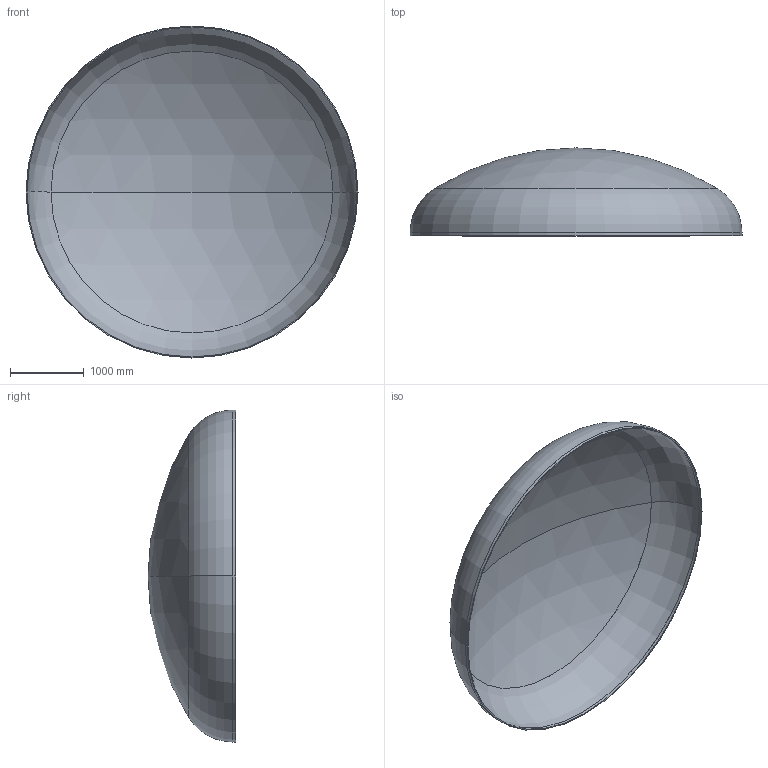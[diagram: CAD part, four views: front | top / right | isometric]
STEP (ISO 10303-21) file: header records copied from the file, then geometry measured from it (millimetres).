
FILE_DESCRIPTION (( 'STEP AP203' ), '1' );
FILE_NAME ('DIN 28013 Korbbogenform_-_Boden DIN 28013 - 4500 x 40 - I - s=13.step', '2016-07-01T23:03:37', ( '' ), ( '' ), 'SwSTEP 2.0', 'SolidWorks 2013', '' );
FILE_SCHEMA (( 'CONFIG_CONTROL_DESIGN' ));
Length unit declared in the file: millimetre
Products named in the file (1): DIN 28013 Korbbogenform_-_Boden DIN 28013 - 4500 x 40 - I - s=13
Bounding box: 4500 x 1191.04 x 4500 mm (x, y, z)
Volume: 292773256.8 mm3; surface area: 45225627.4 mm2
Topology: 1 solids, 1 shells, 13 faces, 24 edges, 14 vertices
Faces by surface type: torus 4, cylinder 4, sphere 4, plane 1
Entity records: 407 total; most frequent: DIRECTION 72, CARTESIAN_POINT 52, ORIENTED_EDGE 48, AXIS2_PLACEMENT_3D 34, EDGE_CURVE 24, CIRCLE 20, EDGE_LOOP 14, VERTEX_POINT 14
